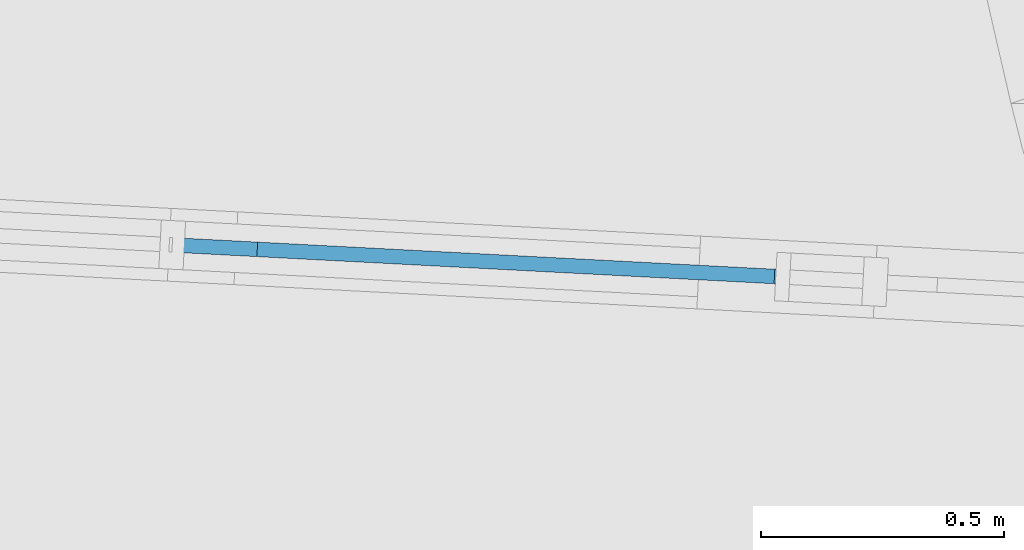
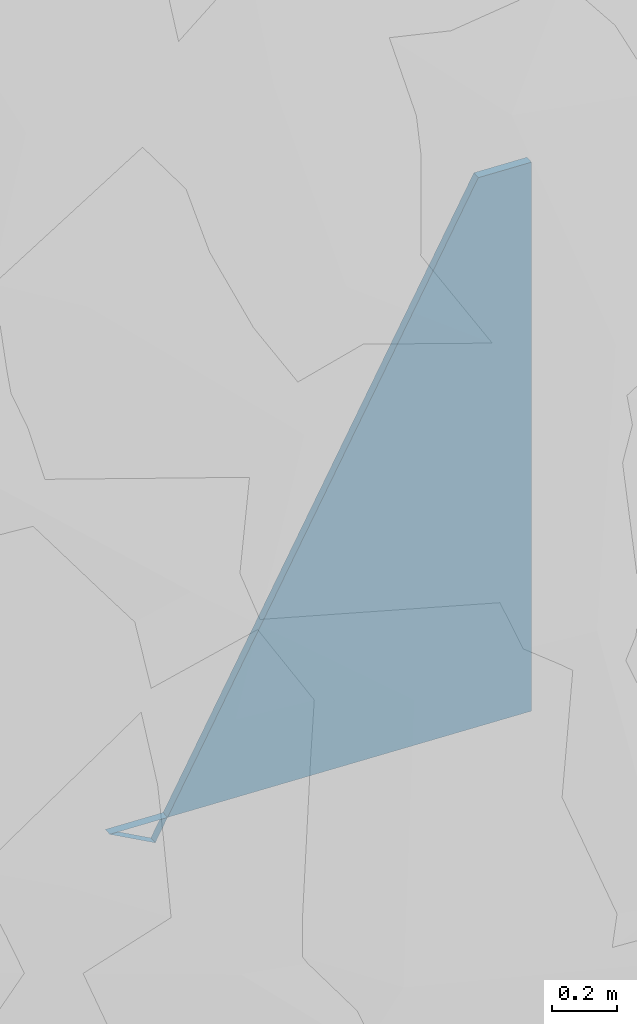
# One storey, part 69 of 82: 1 plate, 1 element without a shape of its own.
"""IFC2X3 building model written with IfcOpenShell, lengths in millimetres."""

from ifc_helpers import new_model, entity, si_unit, converted_unit, derived_unit, direction, frame, origin, place, context, subcontext, project, spatial, faceted_brep, source, transform, mapped, material, layer, layer_set, type_object, type_shapes, element, aggregate, save


model = new_model("IFC2X3")

# Units and contexts
model_context = context("Model", 3, precision=0.01, world=origin(), true_north=direction((6.12303176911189e-17, 1.0)))
body_context = subcontext(model_context, "Body", "Model", "MODEL_VIEW")
ifc_project = project(units=[si_unit("LENGTHUNIT", "METRE", prefix="MILLI"), si_unit("AREAUNIT", "SQUARE_METRE"), si_unit("VOLUMEUNIT", "CUBIC_METRE"), converted_unit("PLANEANGLEUNIT", "DEGREE", entity("IfcRatioMeasure", 0.0174532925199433), si_unit("PLANEANGLEUNIT", "RADIAN"), dimensions=[0, 0, 0, 0, 0, 0, 0]), si_unit("MASSUNIT", "GRAM", prefix="KILO"), derived_unit("MASSDENSITYUNIT", [(si_unit("MASSUNIT", "GRAM", prefix="KILO"), 1), (si_unit("LENGTHUNIT", "METRE"), -3)]), si_unit("TIMEUNIT", "SECOND"), si_unit("FREQUENCYUNIT", "HERTZ"), si_unit("THERMODYNAMICTEMPERATUREUNIT", "DEGREE_CELSIUS"), derived_unit("THERMALTRANSMITTANCEUNIT", [(si_unit("MASSUNIT", "GRAM", prefix="KILO"), 1), (si_unit("THERMODYNAMICTEMPERATUREUNIT", "KELVIN"), -1), (si_unit("TIMEUNIT", "SECOND"), -3)]), derived_unit("VOLUMETRICFLOWRATEUNIT", [(si_unit("LENGTHUNIT", "METRE"), 3), (si_unit("TIMEUNIT", "SECOND"), -1)]), si_unit("ELECTRICCURRENTUNIT", "AMPERE"), si_unit("ELECTRICVOLTAGEUNIT", "VOLT"), si_unit("POWERUNIT", "WATT"), si_unit("FORCEUNIT", "NEWTON", prefix="KILO"), si_unit("ILLUMINANCEUNIT", "LUX"), si_unit("LUMINOUSFLUXUNIT", "LUMEN"), si_unit("LUMINOUSINTENSITYUNIT", "CANDELA"), derived_unit("USERDEFINED", [(si_unit("MASSUNIT", "GRAM", prefix="KILO"), -1), (si_unit("LENGTHUNIT", "METRE"), -2), (si_unit("TIMEUNIT", "SECOND"), 3), (si_unit("LUMINOUSFLUXUNIT", "LUMEN"), 1)]), derived_unit("LINEARVELOCITYUNIT", [(si_unit("LENGTHUNIT", "METRE"), 1), (si_unit("TIMEUNIT", "SECOND"), -1)]), si_unit("PRESSUREUNIT", "PASCAL"), derived_unit("USERDEFINED", [(si_unit("LENGTHUNIT", "METRE"), -2), (si_unit("MASSUNIT", "GRAM", prefix="KILO"), 1), (si_unit("TIMEUNIT", "SECOND"), -2)])], contexts=[model_context])

# Site, building, storey
site_placement = place(None, origin())
site = spatial("IfcSite", under=ifc_project, at=site_placement, Name="表面", CompositionType="ELEMENT")
building_placement = place(site_placement, origin())
building = spatial("IfcBuilding", under=site, at=building_placement, CompositionType="ELEMENT")
storey_placement = place(building_placement, origin())
storey = spatial("IfcBuildingStorey", under=building, at=storey_placement, Name="1F", CompositionType="ELEMENT", Elevation=0.0)

# Curtain wall, plate
curtain_wall_type = type_object("IfcCurtainWallType", Name="幕墙系统:1450 x 2100mm", PredefinedType="NOTDEFINED")
curtain_wall_placement = place(storey_placement, origin())
curtain_wall = element("IfcCurtainWall", 1, at=curtain_wall_placement, inside=storey, type_object=curtain_wall_type, Name="幕墙系统:1450 x 2100mm", ObjectType="幕墙系统:1450 x 2100mm")
ifc_material_1 = material(Name="玻璃")
ifc_material_2 = material(Name="<Unnamed>")
ifc_layer = layer(ifc_material_2, 30.0)
ifc_layer_set = layer_set([ifc_layer], Name="幕墙系统:1450 x 2100mm")
plate_type = type_object("IfcPlateType", Name="玻璃", PredefinedType="CURTAIN_PANEL", material=ifc_layer_set)
shared_shape = source(origin(), body_context, "Body", "Brep", [
    faceted_brep([(724.130383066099, -15.0, 81.3495511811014), (567.808823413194, -15.0, 0.0), (-541.342913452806, -15.0, 2131.3495511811), (-724.130383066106, -15.0, 2131.3495511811), (-724.130383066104, -15.0, 81.3495511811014), (724.130383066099, 15.0, 81.3495511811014), (-724.130383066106, 15.0, 81.3495511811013), (-724.130383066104, 15.0, 2131.3495511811), (-541.342913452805, 15.0, 2131.3495511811), (567.808823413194, 15.0, 0.0)], [[[0, 1, 2, 3, 4]], [[5, 6, 7, 8, 9]], [[1, 0, 5, 9]], [[2, 1, 9, 8]], [[3, 2, 8, 7]], [[4, 3, 7, 6]], [[0, 4, 6, 5]]]),
])
type_shapes(plate_type, [shared_shape])
plate_placement = place(curtain_wall_placement, frame((-30644.8067582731, -28217.0995103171, 14643.6504488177), z_axis=(0.0, 0.0, 1.0), x_axis=(-0.998629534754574, 0.0523359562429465, 0.0)))
plate = element("IfcPlate", 2, at=plate_placement, type_object=plate_type, material=ifc_material_1, Name="系统嵌板:玻璃", ObjectType="玻璃", context=body_context, shape_type="MappedRepresentation", body=[
    mapped(shared_shape, transform((0.0, 0.0, 0.0), scale=1.0)),
])
aggregate(curtain_wall, [plate])

save(model, "model.ifc")
